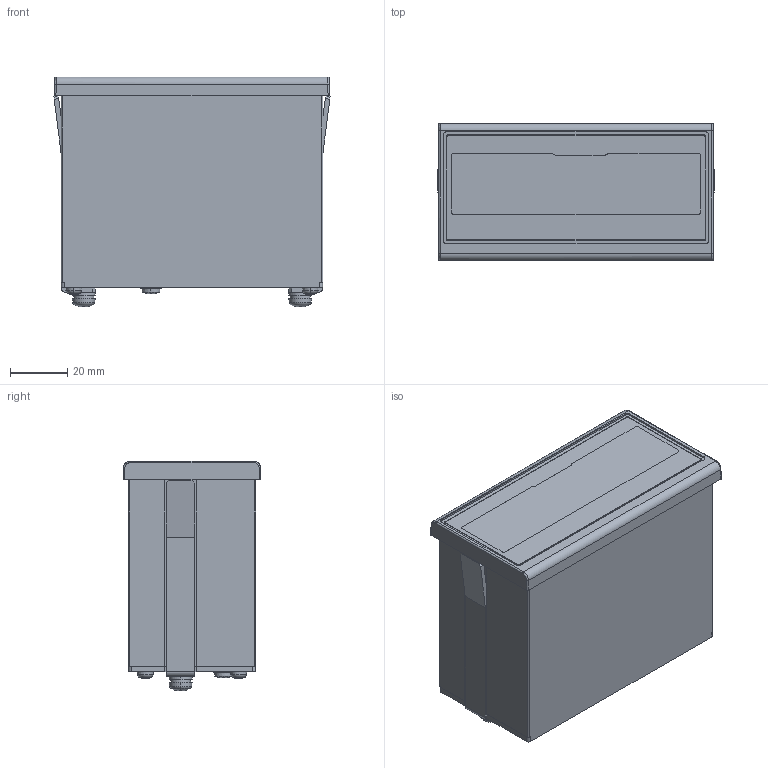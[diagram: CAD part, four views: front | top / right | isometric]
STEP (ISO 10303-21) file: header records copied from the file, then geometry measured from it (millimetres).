
FILE_DESCRIPTION(('Creo Elements/Direct Modeling STEP Export'),'2;1');
FILE_NAME('EC-101D.stp','2017-05-29T 8:18:55',(''),(''),'Creo Elements/Direct Modeling STEP processor for AP214 (Solid Model)','Creo Elements/Direct Modeling 18.1B 29-Sep-2012 (C) Parametric Technology GmbH','');
FILE_SCHEMA(('AUTOMOTIVE_DESIGN { 1 0 10303 214 1 1 1 1 }'));
Length unit declared in the file: millimetre
Products named in the file (1): EC-101D
Bounding box: 96.48 x 48 x 80.25 mm (x, y, z)
Volume: 297089.9 mm3; surface area: 35288.4 mm2
Topology: 1 solids, 1 shells, 585 faces, 1513 edges, 958 vertices
Faces by surface type: plane 437, cylinder 100, sphere 18, cone 14, torus 12, bspline 4
Entity records: 20535 total; most frequent: CARTESIAN_POINT 4551, ORIENTED_EDGE 3018, DIRECTION 2785, EDGE_CURVE 1509, VECTOR 1113, LINE 1113, VERTEX_POINT 958, AXIS2_PLACEMENT_3D 836
